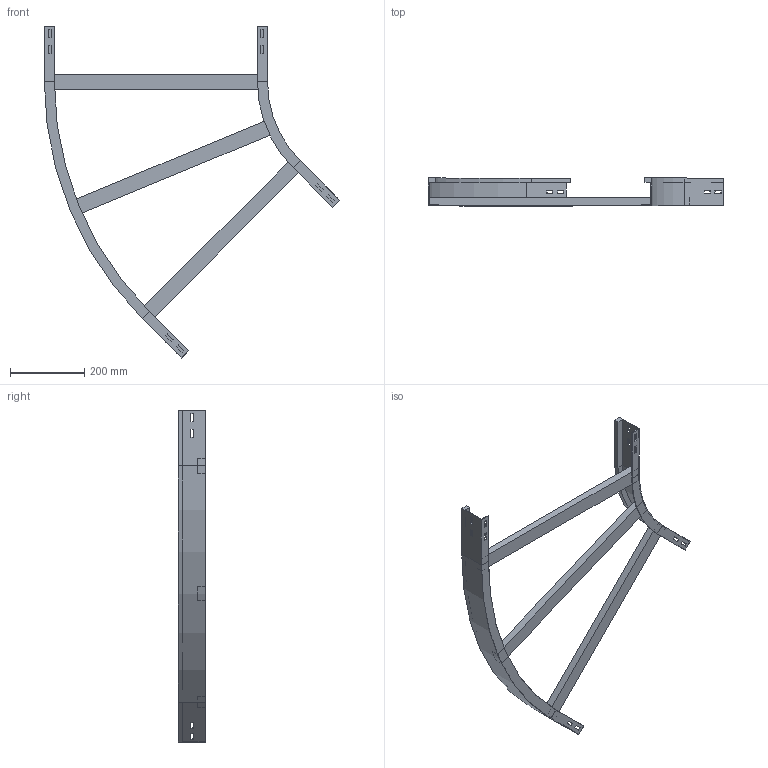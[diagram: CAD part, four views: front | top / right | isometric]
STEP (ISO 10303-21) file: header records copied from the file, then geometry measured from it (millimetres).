
FILE_DESCRIPTION (( 'STEP AP214' ), '1' );
FILE_NAME ('A2_11B3C600.step', '2025-02-21T15:16:09', ( '' ), ( '' ), 'SwSTEP 2.0', 'SolidWorks 2023', '' );
FILE_SCHEMA (( 'AUTOMOTIVE_DESIGN' ));
Length unit declared in the file: millimetre
Products named in the file (4): A2_11B3C600; TRAVERSINO_600; A2_LONGH.INTERNO 45°_H75_R300; A2_LONGH.ESTERNO 45°_H75_R300+600
Assembly tree (5 placements, depth 2):
  A2_11B3C600
    A2_LONGH.INTERNO 45°_H75_R300
    A2_LONGH.ESTERNO 45°_H75_R300+600
    TRAVERSINO_600  x3
Bounding box: 793.93 x 75 x 892.46 mm (x, y, z)
Volume: 2048003.3 mm3; surface area: 583728.8 mm2
Topology: 5 solids, 5 shells, 134 faces, 340 edges, 216 vertices
Faces by surface type: plane 126, cylinder 8
Entity records: 3821 total; most frequent: CARTESIAN_POINT 646, ORIENTED_EDGE 632, DIRECTION 592, EDGE_CURVE 316, VECTOR 300, LINE 300, VERTEX_POINT 200, EDGE_LOOP 154
